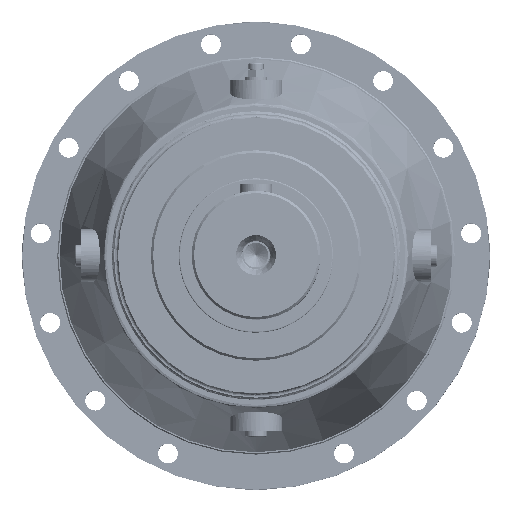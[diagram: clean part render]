
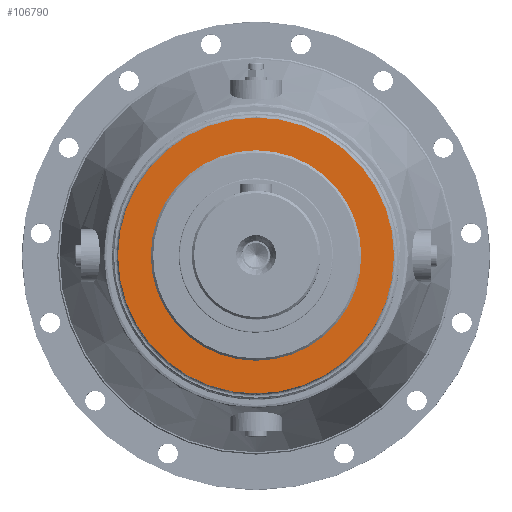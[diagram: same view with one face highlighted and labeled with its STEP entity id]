
A CAD part, top view. The second image highlights one B-rep face of the part: STEP entity #106790.
In plain terms, the highlighted planar face has unit normal (0, 0, 1).
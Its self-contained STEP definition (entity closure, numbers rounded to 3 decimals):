
#58173 = CARTESIAN_POINT ( 'NONE',  ( 0., 118., 175. ) ) ;
#58242 = CARTESIAN_POINT ( 'NONE',  ( 0., -90., 175. ) ) ;
#58272 = CARTESIAN_POINT ( 'NONE',  ( 0., -118., 175. ) ) ;
#58298 = CARTESIAN_POINT ( 'NONE',  ( 0., 90., 175. ) ) ;
#106790 = ADVANCED_FACE ( 'NONE', ( #234337, #234314 ), #250924, .F. ) ;
#130911 = ORIENTED_EDGE ( 'NONE', *, *, #168374, .F. ) ;
#130994 = ORIENTED_EDGE ( 'NONE', *, *, #168031, .F. ) ;
#131123 = ORIENTED_EDGE ( 'NONE', *, *, #168152, .F. ) ;
#135066 = ORIENTED_EDGE ( 'NONE', *, *, #168325, .F. ) ;
#168031 = EDGE_CURVE ( 'NONE', #220445, #220447, #278326, .T. ) ;
#168152 = EDGE_CURVE ( 'NONE', #220452, #220448, #278409, .T. ) ;
#168325 = EDGE_CURVE ( 'NONE', #220448, #220452, #278559, .T. ) ;
#168374 = EDGE_CURVE ( 'NONE', #220447, #220445, #278552, .T. ) ;
#176056 = AXIS2_PLACEMENT_3D ( 'NONE', #250969, #250961, #250934 ) ;
#220445 = VERTEX_POINT ( 'NONE', #58173 ) ;
#220447 = VERTEX_POINT ( 'NONE', #58272 ) ;
#220448 = VERTEX_POINT ( 'NONE', #58298 ) ;
#220452 = VERTEX_POINT ( 'NONE', #58242 ) ;
#234314 = FACE_OUTER_BOUND ( 'NONE', #247639, .T. ) ;
#234337 = FACE_BOUND ( 'NONE', #247748, .T. ) ;
#247639 = EDGE_LOOP ( 'NONE', ( #130911, #130994 ) ) ;
#247748 = EDGE_LOOP ( 'NONE', ( #135066, #131123 ) ) ;
#250924 = PLANE ( 'NONE',  #176056 ) ;
#250934 = DIRECTION ( 'NONE',  ( 0., 1., 0. ) ) ;
#250961 = DIRECTION ( 'NONE',  ( 0., 0., -1. ) ) ;
#250969 = CARTESIAN_POINT ( 'NONE',  ( 0., 118., 175. ) ) ;
#269077 = AXIS2_PLACEMENT_3D ( 'NONE', #317992, #318003, #317995 ) ;
#269336 = AXIS2_PLACEMENT_3D ( 'NONE', #319173, #319144, #319190 ) ;
#269373 = AXIS2_PLACEMENT_3D ( 'NONE', #318249, #318306, #318276 ) ;
#269450 = AXIS2_PLACEMENT_3D ( 'NONE', #319087, #319109, #319036 ) ;
#278326 = CIRCLE ( 'NONE', #269077, 118. ) ;
#278409 = CIRCLE ( 'NONE', #269373, 90. ) ;
#278552 = CIRCLE ( 'NONE', #269336, 118. ) ;
#278559 = CIRCLE ( 'NONE', #269450, 90. ) ;
#317992 = CARTESIAN_POINT ( 'NONE',  ( 0., 0., 175. ) ) ;
#317995 = DIRECTION ( 'NONE',  ( 0., 1., 0. ) ) ;
#318003 = DIRECTION ( 'NONE',  ( 0., 0., -1. ) ) ;
#318249 = CARTESIAN_POINT ( 'NONE',  ( 0., 0., 175. ) ) ;
#318276 = DIRECTION ( 'NONE',  ( 0., 1., 0. ) ) ;
#318306 = DIRECTION ( 'NONE',  ( 0., 0., 1. ) ) ;
#319036 = DIRECTION ( 'NONE',  ( 0., 1., 0. ) ) ;
#319087 = CARTESIAN_POINT ( 'NONE',  ( 0., 0., 175. ) ) ;
#319109 = DIRECTION ( 'NONE',  ( 0., 0., 1. ) ) ;
#319144 = DIRECTION ( 'NONE',  ( 0., 0., -1. ) ) ;
#319173 = CARTESIAN_POINT ( 'NONE',  ( 0., 0., 175. ) ) ;
#319190 = DIRECTION ( 'NONE',  ( 0., 1., 0. ) ) ;
